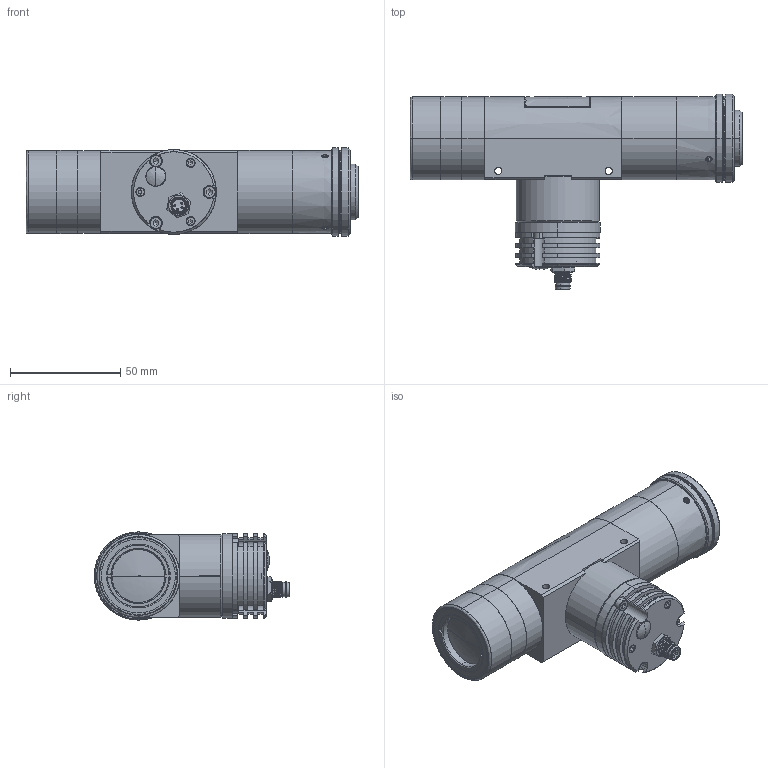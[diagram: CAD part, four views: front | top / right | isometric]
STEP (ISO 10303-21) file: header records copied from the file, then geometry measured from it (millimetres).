
FILE_DESCRIPTION(('LS-TCL-0399'),'2;1');
FILE_NAME('LS-TCL-0399.stp','2026-10-15T21:56:39',('LumaSpec Vision'),('LumaSpec Vision'),'LumaSpec Vision','LumaSpec Vision','');
FILE_SCHEMA(('AUTOMOTIVE_DESIGN { 1 0 10303 214 1 1 1 1 }'));
Length unit declared in the file: millimetre
Products named in the file (406): LumaSpec Vision
Assembly tree (405 placements, depth 2):
  LumaSpec Vision
    LumaSpec Vision
    LumaSpec Vision
    LumaSpec Vision
    LumaSpec Vision
    LumaSpec Vision
    LumaSpec Vision
    LumaSpec Vision
    LumaSpec Vision
    LumaSpec Vision
    LumaSpec Vision
    LumaSpec Vision
    LumaSpec Vision
    LumaSpec Vision
    LumaSpec Vision
    LumaSpec Vision
    LumaSpec Vision
    LumaSpec Vision
    LumaSpec Vision
    LumaSpec Vision
    LumaSpec Vision
    LumaSpec Vision
    LumaSpec Vision
    LumaSpec Vision
    LumaSpec Vision
    LumaSpec Vision
    LumaSpec Vision
    LumaSpec Vision
    LumaSpec Vision
    LumaSpec Vision
    LumaSpec Vision
    LumaSpec Vision
    LumaSpec Vision
    LumaSpec Vision
    LumaSpec Vision
    LumaSpec Vision
    LumaSpec Vision
    LumaSpec Vision
    LumaSpec Vision
    LumaSpec Vision
    LumaSpec Vision
    LumaSpec Vision
    LumaSpec Vision
    LumaSpec Vision
    LumaSpec Vision
    LumaSpec Vision
    LumaSpec Vision
    LumaSpec Vision
    LumaSpec Vision
    LumaSpec Vision
    LumaSpec Vision
    LumaSpec Vision
    LumaSpec Vision
    LumaSpec Vision
    LumaSpec Vision
    LumaSpec Vision
    LumaSpec Vision
    LumaSpec Vision
    LumaSpec Vision
    LumaSpec Vision
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Bounding box: 150.72 x 88.72 x 40 mm (x, y, z)
Surface area: 38381.2 mm2 (no closed solid volume)
Topology: 0 solids, 405 shells, 405 faces, 6563 edges, 6535 vertices
Faces by surface type: bspline 251, revolution 154
Entity records: 111834 total; most frequent: CARTESIAN_POINT 46601, B_SPLINE_CURVE_WITH_KNOTS 11732, ORIENTED_EDGE 6535, EDGE_CURVE 6535, VERTEX_POINT 6535, SURFACE_CURVE 6535, PCURVE 6535, DEFINITIONAL_REPRESENTATION 6535
